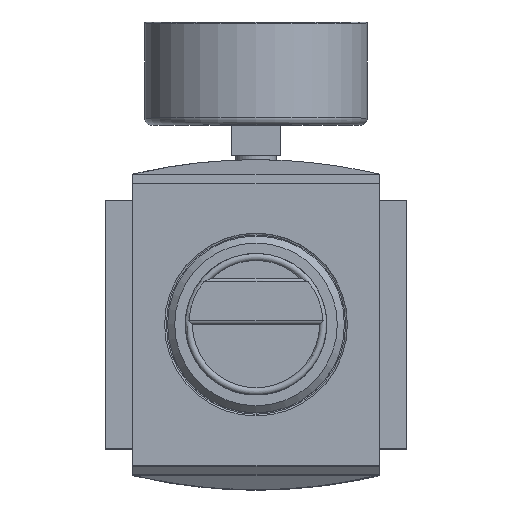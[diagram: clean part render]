
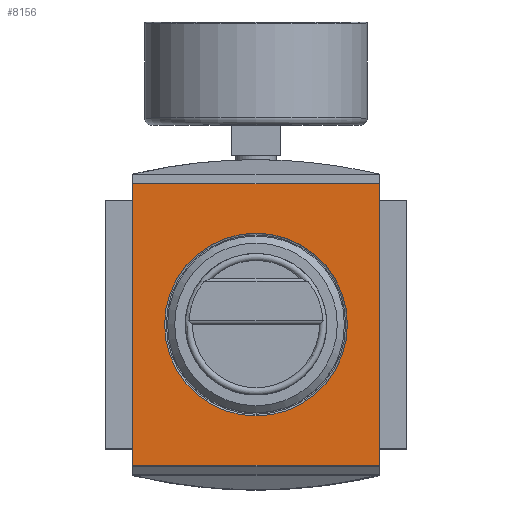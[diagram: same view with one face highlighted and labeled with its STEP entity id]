
A CAD part, top view. The second image highlights one B-rep face of the part: STEP entity #8156.
In plain terms, the highlighted planar face has unit normal (0, 0, 1).
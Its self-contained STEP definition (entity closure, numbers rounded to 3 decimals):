
#8106=CARTESIAN_POINT('',(0.0,0.0,58.));
#8107=DIRECTION('',(0.0,0.0,1.0));
#8108=DIRECTION('',(1.0,0.0,0.0));
#8109=AXIS2_PLACEMENT_3D('',#8106,#8107,#8108);
#8110=PLANE('',#8109);
#8111=CARTESIAN_POINT('',(-34.8,39.812,58.));
#8112=VERTEX_POINT('',#8111);
#8113=CARTESIAN_POINT('',(34.8,39.812,58.));
#8114=VERTEX_POINT('',#8113);
#8115=CARTESIAN_POINT('',(-34.8,39.812,58.));
#8116=DIRECTION('',(1.0,0.0,0.0));
#8117=VECTOR('',#8116,69.6);
#8118=LINE('',#8115,#8117);
#8119=EDGE_CURVE('',#8112,#8114,#8118,.T.);
#8120=ORIENTED_EDGE('',*,*,#8119,.F.);
#8121=CARTESIAN_POINT('',(-34.8,-39.812,58.));
#8122=VERTEX_POINT('',#8121);
#8123=CARTESIAN_POINT('',(-34.8,-39.812,58.));
#8124=DIRECTION('',(0.0,1.0,0.0));
#8125=VECTOR('',#8124,79.624);
#8126=LINE('',#8123,#8125);
#8127=EDGE_CURVE('',#8122,#8112,#8126,.T.);
#8128=ORIENTED_EDGE('',*,*,#8127,.F.);
#8129=CARTESIAN_POINT('',(34.8,-39.812,58.));
#8130=VERTEX_POINT('',#8129);
#8131=CARTESIAN_POINT('',(34.8,-39.812,58.));
#8132=DIRECTION('',(-1.0,0.0,0.0));
#8133=VECTOR('',#8132,69.6);
#8134=LINE('',#8131,#8133);
#8135=EDGE_CURVE('',#8130,#8122,#8134,.T.);
#8136=ORIENTED_EDGE('',*,*,#8135,.F.);
#8137=CARTESIAN_POINT('',(34.8,39.812,58.));
#8138=DIRECTION('',(0.0,-1.0,0.0));
#8139=VECTOR('',#8138,79.624);
#8140=LINE('',#8137,#8139);
#8141=EDGE_CURVE('',#8114,#8130,#8140,.T.);
#8142=ORIENTED_EDGE('',*,*,#8141,.F.);
#8143=EDGE_LOOP('',(#8120,#8128,#8136,#8142));
#8144=FACE_OUTER_BOUND('',#8143,.T.);
#8145=CARTESIAN_POINT('',(-25.85,0.0,58.));
#8146=VERTEX_POINT('',#8145);
#8147=CARTESIAN_POINT('',(0.0,0.0,58.));
#8148=DIRECTION('',(0.0,0.0,-1.0));
#8149=DIRECTION('',(1.0,0.0,0.0));
#8150=AXIS2_PLACEMENT_3D('',#8147,#8148,#8149);
#8151=CIRCLE('',#8150,25.85);
#8152=EDGE_CURVE('',#8146,#8146,#8151,.T.);
#8153=ORIENTED_EDGE('',*,*,#8152,.T.);
#8154=EDGE_LOOP('',(#8153));
#8155=FACE_BOUND('',#8154,.T.);
#8156=ADVANCED_FACE('',(#8144,#8155),#8110,.T.);
